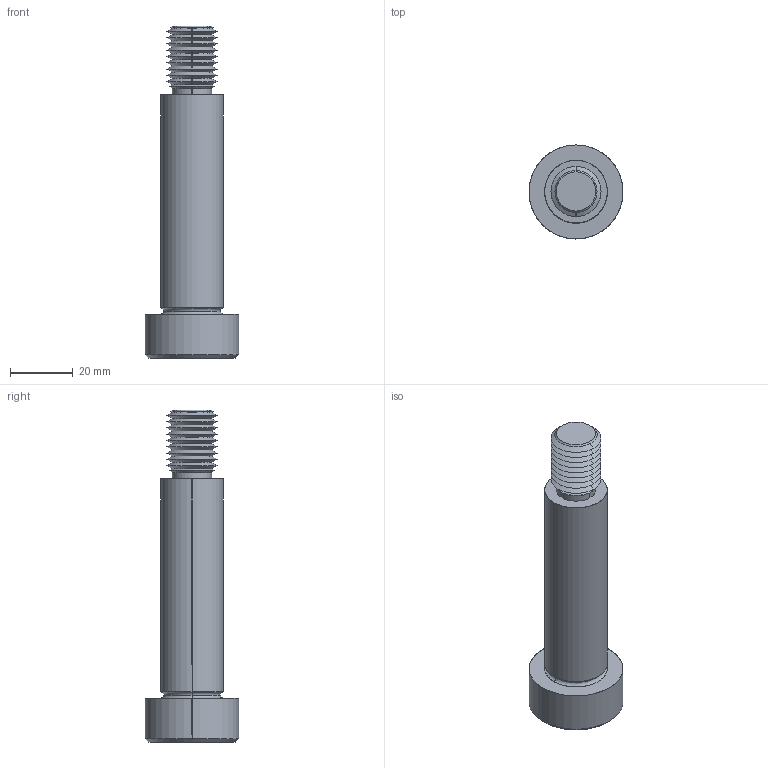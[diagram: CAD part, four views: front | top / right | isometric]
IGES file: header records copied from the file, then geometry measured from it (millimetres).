
Start section: SolidWorks IGES file using analytic representation for surfaces
Global section: file name: C:\Users\IanO\Documents\Temp Folder\GENERAL\SCREW REVISION\P0130_v2\P0130.T5_v2_20220106_IGES\P0130.200-070-T5.igs; native system: SolidWorks 2019; preprocessor: SolidWorks 2019; author: IanO; date: 220106.230207; units: millimetre
Bounding box: 30 x 30 x 106 mm (x, y, z)
Surface area: 9316.2 mm2 (no closed solid volume)
Topology: 0 solids, 0 shells, 80 faces, 692 edges, 690 vertices
Faces by surface type: revolution 60, bspline 20
